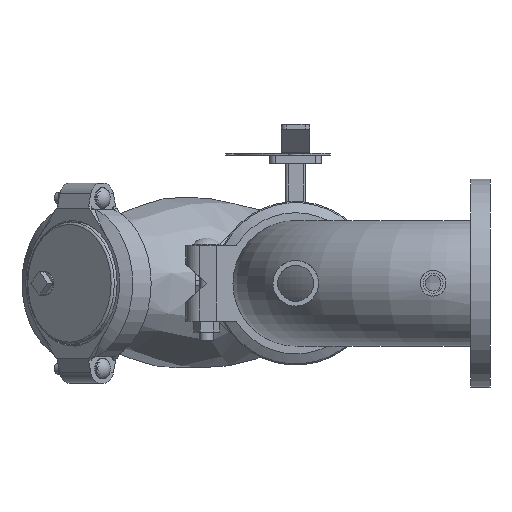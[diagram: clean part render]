
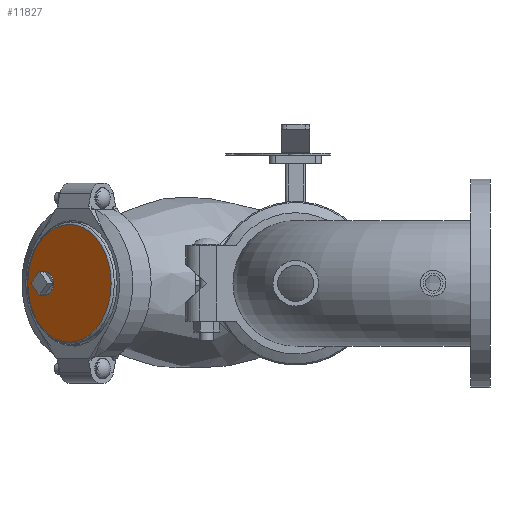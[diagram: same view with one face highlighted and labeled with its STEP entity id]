
A CAD part, front view. The second image highlights one B-rep face of the part: STEP entity #11827.
In plain terms, the highlighted planar face has unit normal (-0.707, -0.707, 0) as drawn and (1, 0, 0) by its records, which use the part's own axes.
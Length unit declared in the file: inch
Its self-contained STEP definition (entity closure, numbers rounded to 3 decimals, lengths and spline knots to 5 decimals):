
#2313=FACE_BOUND('',#3391,.T.);
#2688=FACE_OUTER_BOUND('',#3390,.T.);
#3390=EDGE_LOOP('',(#8651,#8652));
#3391=EDGE_LOOP('',(#8653));
#4097=CIRCLE('',#13024,0.625);
#4105=CIRCLE('',#13035,3.1075);
#4106=CIRCLE('',#13036,3.1075);
#4955=VERTEX_POINT('',#22638);
#4963=VERTEX_POINT('',#22659);
#4964=VERTEX_POINT('',#22660);
#6291=EDGE_CURVE('',#4955,#4955,#4097,.T.);
#6300=EDGE_CURVE('',#4963,#4964,#4105,.T.);
#6301=EDGE_CURVE('',#4964,#4963,#4106,.T.);
#8651=ORIENTED_EDGE('',*,*,#6300,.T.);
#8652=ORIENTED_EDGE('',*,*,#6301,.T.);
#8653=ORIENTED_EDGE('',*,*,#6291,.T.);
#10674=PLANE('',#13038);
#11827=ADVANCED_FACE('',(#2688,#2313),#10674,.T.);
#13024=AXIS2_PLACEMENT_3D('',#22640,#15257,#15258);
#13035=AXIS2_PLACEMENT_3D('',#22661,#15280,#15281);
#13036=AXIS2_PLACEMENT_3D('',#22662,#15282,#15283);
#13038=AXIS2_PLACEMENT_3D('',#22664,#15286,#15287);
#15257=DIRECTION('center_axis',(-1.,0.,0.));
#15258=DIRECTION('ref_axis',(0.,0.,1.));
#15280=DIRECTION('center_axis',(1.,0.,0.));
#15281=DIRECTION('ref_axis',(0.,0.,-1.));
#15282=DIRECTION('center_axis',(1.,0.,0.));
#15283=DIRECTION('ref_axis',(0.,0.,-1.));
#15286=DIRECTION('center_axis',(1.,0.,0.));
#15287=DIRECTION('ref_axis',(0.,0.,-1.));
#22638=CARTESIAN_POINT('',(1.2,1.8,-0.625));
#22640=CARTESIAN_POINT('Origin',(1.2,1.8,0.));
#22659=CARTESIAN_POINT('',(1.2,3.1075,0.));
#22660=CARTESIAN_POINT('',(1.2,0.,3.1075));
#22661=CARTESIAN_POINT('Origin',(1.2,0.,0.));
#22662=CARTESIAN_POINT('Origin',(1.2,0.,0.));
#22664=CARTESIAN_POINT('Origin',(1.2,0.,0.));
